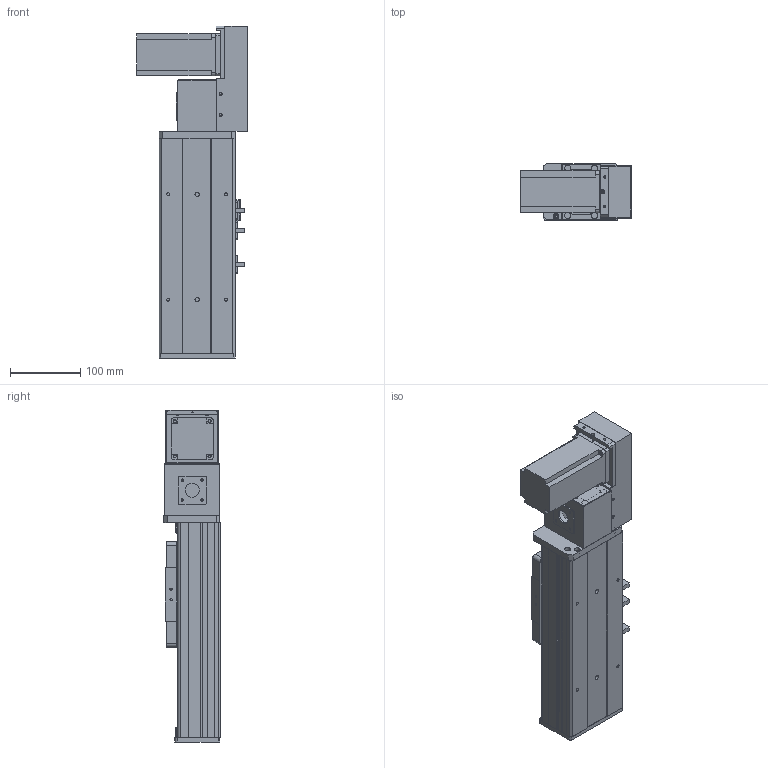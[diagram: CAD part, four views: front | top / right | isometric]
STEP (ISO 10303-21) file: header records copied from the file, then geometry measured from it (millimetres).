
FILE_DESCRIPTION (( 'STEP AP203' ), '1' );
FILE_NAME ('Y10CB-D90-S50-BR-P400W.STEP', '2020-02-16T01:28:28', ( '微软用户' ), ( '微软中国' ), 'SwSTEP 2.0', 'SolidWorks 2017', '' );
FILE_SCHEMA (( 'CONFIG_CONTROL_DESIGN' ));
Length unit declared in the file: millimetre
Products named in the file (18): Y100-135俋离換覜ん--; 0B-埴倛裔啣; Y10B--々湍喘謫眊--666; Y俋欶BR----; 0CB-雄赽釱---; Y10CB-D90-S50-BR-P400W; 10CB-詩湍-; 0Cb-俋欶---; Y10CB- 掛极耜裔啣-毀---; Y10B-々湍喘謫眊楊擘啣--; Y10C---詩湍揤啣; Y10B-耜蚾蟀諉啣----; 10CB9-掛极; 0B-萇儂楊擘啣; 10CB-耜裔; san松下电机400不带刹车----; Y135C-陔俋离換覜結え-; 0B-源倛裔啣
Assembly tree (21 placements, depth 2):
  Y10CB-D90-S50-BR-P400W
    0CB-雄赽釱---
    0Cb-俋欶---
    Y10B-々湍喘謫眊楊擘啣--
    Y10B-耜蚾蟀諉啣----
    0B-萇儂楊擘啣
    san松下电机400不带刹车----
    0B-源倛裔啣
    0B-埴倛裔啣
    Y俋欶BR----
    10CB-詩湍-
    Y10CB- 掛极耜裔啣-毀---  x2
    Y10C---詩湍揤啣  x2
    10CB9-掛极
    10CB-耜裔
    Y135C-陔俋离換覜結え-
    Y100-135俋离換覜ん--  x3
    Y10B--々湍喘謫眊--666
Bounding box: 157.5 x 80.5 x 472.5 mm (x, y, z)
Volume: 1479091.4 mm3; surface area: 576254 mm2
Topology: 21 solids, 21 shells, 930 faces, 2443 edges, 1610 vertices
Faces by surface type: plane 469, cylinder 437, cone 24
Entity records: 28404 total; most frequent: CARTESIAN_POINT 4729, DIRECTION 4654, ORIENTED_EDGE 4356, EDGE_CURVE 2178, AXIS2_PLACEMENT_3D 1665, VERTEX_POINT 1436, LINE 1324, VECTOR 1324
